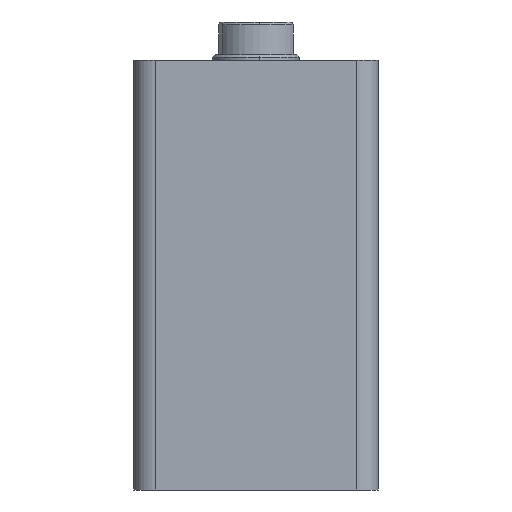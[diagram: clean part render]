
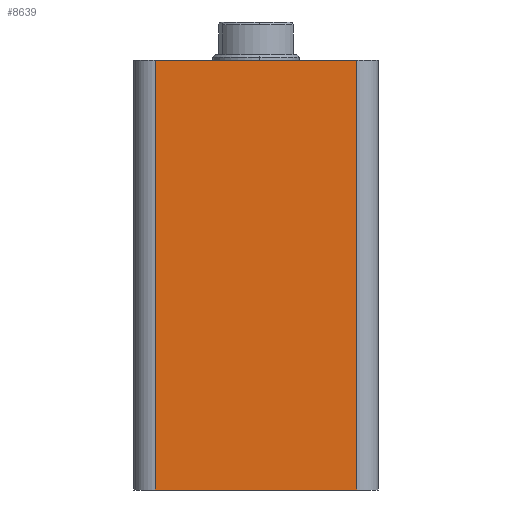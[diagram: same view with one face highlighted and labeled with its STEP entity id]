
A CAD part, front view. The second image highlights one B-rep face of the part: STEP entity #8639.
In plain terms, the highlighted planar face has unit normal (0, -1, 0).
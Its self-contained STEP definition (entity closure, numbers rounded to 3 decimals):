
#247 = DIRECTION ( 'NONE',  ( 0., 1., 0. ) ) ;
#1199 = DIRECTION ( 'NONE',  ( 1., 0., 0. ) ) ;
#1476 = VECTOR ( 'NONE', #14950, 1000. ) ;
#1493 = EDGE_CURVE ( 'NONE', #13185, #11759, #12687, .T. ) ;
#1643 = EDGE_LOOP ( 'NONE', ( #5219, #3030, #7239, #13661 ) ) ;
#1781 = PLANE ( 'NONE',  #8641 ) ;
#2473 = LINE ( 'NONE', #7634, #6551 ) ;
#2501 = CARTESIAN_POINT ( 'NONE',  ( 4., 0., 0. ) ) ;
#2831 = CARTESIAN_POINT ( 'NONE',  ( 4., 0., 79. ) ) ;
#3030 = ORIENTED_EDGE ( 'NONE', *, *, #15178, .T. ) ;
#5219 = ORIENTED_EDGE ( 'NONE', *, *, #1493, .T. ) ;
#5425 = DIRECTION ( 'NONE',  ( 0., 0., 1. ) ) ;
#6100 = CARTESIAN_POINT ( 'NONE',  ( 4., 0., 79. ) ) ;
#6129 = CARTESIAN_POINT ( 'NONE',  ( 0., 0., 0. ) ) ;
#6224 = EDGE_CURVE ( 'NONE', #9936, #13185, #11453, .T. ) ;
#6551 = VECTOR ( 'NONE', #1199, 1000. ) ;
#7239 = ORIENTED_EDGE ( 'NONE', *, *, #11490, .F. ) ;
#7634 = CARTESIAN_POINT ( 'NONE',  ( 0., 0., 79. ) ) ;
#7926 = VECTOR ( 'NONE', #16676, 1000. ) ;
#8639 = ADVANCED_FACE ( 'NONE', ( #9681 ), #1781, .F. ) ;
#8641 = AXIS2_PLACEMENT_3D ( 'NONE', #15932, #247, #5425 ) ;
#9638 = CARTESIAN_POINT ( 'NONE',  ( 41., 0., 79. ) ) ;
#9681 = FACE_OUTER_BOUND ( 'NONE', #1643, .T. ) ;
#9936 = VERTEX_POINT ( 'NONE', #2831 ) ;
#11047 = CARTESIAN_POINT ( 'NONE',  ( 41., 0., 0. ) ) ;
#11114 = CARTESIAN_POINT ( 'NONE',  ( 41., 0., 79. ) ) ;
#11318 = DIRECTION ( 'NONE',  ( 1., 0., 0. ) ) ;
#11453 = LINE ( 'NONE', #6100, #7926 ) ;
#11490 = EDGE_CURVE ( 'NONE', #9936, #13928, #2473, .T. ) ;
#11759 = VERTEX_POINT ( 'NONE', #11047 ) ;
#12473 = LINE ( 'NONE', #11114, #1476 ) ;
#12593 = VECTOR ( 'NONE', #11318, 1000. ) ;
#12687 = LINE ( 'NONE', #6129, #12593 ) ;
#13185 = VERTEX_POINT ( 'NONE', #2501 ) ;
#13661 = ORIENTED_EDGE ( 'NONE', *, *, #6224, .T. ) ;
#13928 = VERTEX_POINT ( 'NONE', #9638 ) ;
#14950 = DIRECTION ( 'NONE',  ( 0., 0., 1. ) ) ;
#15178 = EDGE_CURVE ( 'NONE', #11759, #13928, #12473, .T. ) ;
#15932 = CARTESIAN_POINT ( 'NONE',  ( 0., 0., 79. ) ) ;
#16676 = DIRECTION ( 'NONE',  ( 0., 0., -1. ) ) ;
